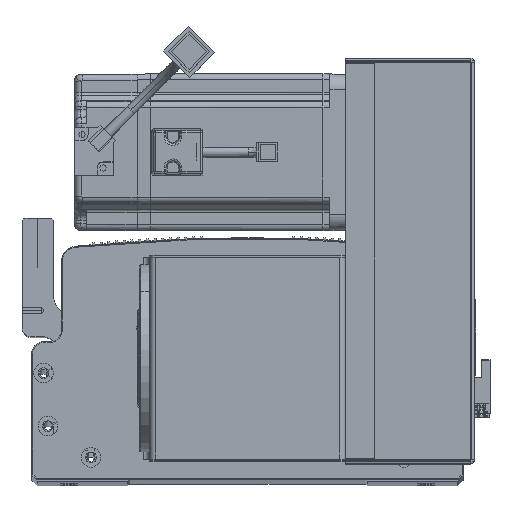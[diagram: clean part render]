
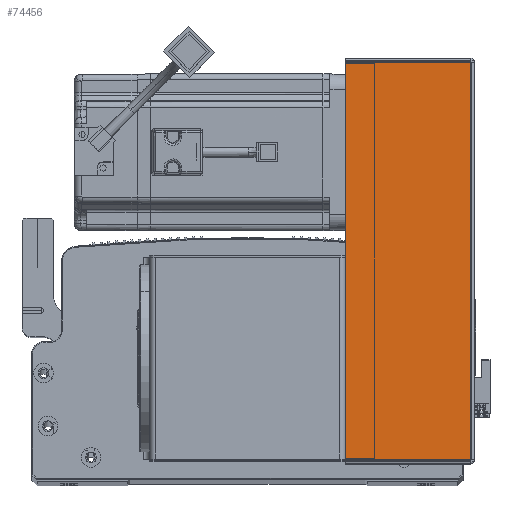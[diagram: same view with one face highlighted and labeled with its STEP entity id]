
A CAD part, top view. The second image highlights one B-rep face of the part: STEP entity #74456.
In plain terms, the highlighted planar face has unit normal (0, 0, 1) as drawn and (0, -1, 0) by its records, which use the part's own axes.
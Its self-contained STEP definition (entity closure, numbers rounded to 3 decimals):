
#2625 = DIRECTION ( 'NONE',  ( 0., 0., 1. ) ) ;
#4671 = PLANE ( 'NONE',  #73810 ) ;
#8097 = EDGE_CURVE ( 'NONE', #47638, #71328, #41339, .T. ) ;
#8360 = LINE ( 'NONE', #44816, #83847 ) ;
#8806 = EDGE_CURVE ( 'NONE', #18400, #47638, #8360, .T. ) ;
#18400 = VERTEX_POINT ( 'NONE', #67176 ) ;
#20755 = CARTESIAN_POINT ( 'NONE',  ( 64.5, -1.5, -0.707 ) ) ;
#22398 = VERTEX_POINT ( 'NONE', #62267 ) ;
#27407 = CARTESIAN_POINT ( 'NONE',  ( 64.5, -1.5, -203.293 ) ) ;
#32556 = VECTOR ( 'NONE', #2625, 1000. ) ;
#41339 = LINE ( 'NONE', #69205, #71179 ) ;
#44808 = DIRECTION ( 'NONE',  ( -1., 0., 0. ) ) ;
#44816 = CARTESIAN_POINT ( 'NONE',  ( 0., -1.5, -203.293 ) ) ;
#47638 = VERTEX_POINT ( 'NONE', #27407 ) ;
#50532 = EDGE_CURVE ( 'NONE', #22398, #71328, #64958, .T. ) ;
#50716 = LINE ( 'NONE', #56773, #32556 ) ;
#52282 = CARTESIAN_POINT ( 'NONE',  ( 0., -1.5, 0. ) ) ;
#52644 = EDGE_LOOP ( 'NONE', ( #86271, #75615, #68047, #61812 ) ) ;
#53651 = DIRECTION ( 'NONE',  ( 1., 0., 0. ) ) ;
#54335 = EDGE_CURVE ( 'NONE', #18400, #22398, #50716, .T. ) ;
#56773 = CARTESIAN_POINT ( 'NONE',  ( 0.737, -1.5, 0. ) ) ;
#61812 = ORIENTED_EDGE ( 'NONE', *, *, #50532, .F. ) ;
#62267 = CARTESIAN_POINT ( 'NONE',  ( 0.737, -1.5, -0.707 ) ) ;
#64958 = LINE ( 'NONE', #66735, #69221 ) ;
#65060 = DIRECTION ( 'NONE',  ( 0., 1., 0. ) ) ;
#66735 = CARTESIAN_POINT ( 'NONE',  ( 0., -1.5, -0.707 ) ) ;
#67176 = CARTESIAN_POINT ( 'NONE',  ( 0.737, -1.5, -203.293 ) ) ;
#68047 = ORIENTED_EDGE ( 'NONE', *, *, #8097, .T. ) ;
#69205 = CARTESIAN_POINT ( 'NONE',  ( 64.5, -1.5, 0. ) ) ;
#69221 = VECTOR ( 'NONE', #53651, 1000. ) ;
#70117 = DIRECTION ( 'NONE',  ( 0., 0., 1. ) ) ;
#71179 = VECTOR ( 'NONE', #70117, 1000. ) ;
#71328 = VERTEX_POINT ( 'NONE', #20755 ) ;
#73810 = AXIS2_PLACEMENT_3D ( 'NONE', #52282, #65060, #44808 ) ;
#74456 = ADVANCED_FACE ( 'NONE', ( #86372 ), #4671, .F. ) ;
#75615 = ORIENTED_EDGE ( 'NONE', *, *, #8806, .T. ) ;
#83847 = VECTOR ( 'NONE', #85584, 1000. ) ;
#85584 = DIRECTION ( 'NONE',  ( 1., 0., 0. ) ) ;
#86271 = ORIENTED_EDGE ( 'NONE', *, *, #54335, .F. ) ;
#86372 = FACE_OUTER_BOUND ( 'NONE', #52644, .T. ) ;
